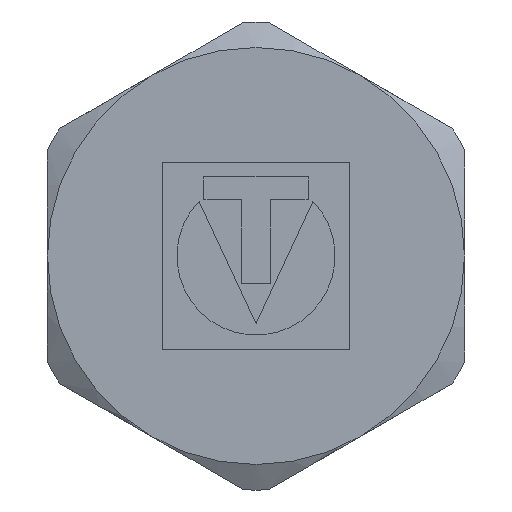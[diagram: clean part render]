
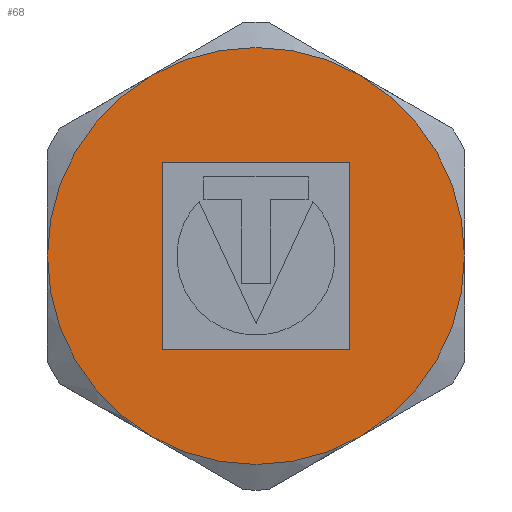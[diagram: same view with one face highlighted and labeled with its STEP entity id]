
A CAD part, front view. The second image highlights one B-rep face of the part: STEP entity #68.
In plain terms, the highlighted planar face has unit normal (0, -1, 0).
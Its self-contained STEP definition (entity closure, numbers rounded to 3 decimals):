
#68=ADVANCED_FACE('',(#260,#262),#264,.F.);
#260=FACE_BOUND('',#261,.T.);
#261=EDGE_LOOP('',(#517,#518,#519));
#262=FACE_BOUND('',#263,.T.);
#263=EDGE_LOOP('',(#520,#521,#522,#523));
#264=PLANE('',#265);
#265=AXIS2_PLACEMENT_3D('',#266,#267,#268);
#266=CARTESIAN_POINT('',(0.,0.,0.));
#267=DIRECTION('',(0.,1.,0.));
#268=DIRECTION('',(-1.,0.,0.));
#517=ORIENTED_EDGE('',*,*,#668,.T.);
#518=ORIENTED_EDGE('',*,*,#667,.T.);
#519=ORIENTED_EDGE('',*,*,#666,.T.);
#520=ORIENTED_EDGE('',*,*,#669,.F.);
#521=ORIENTED_EDGE('',*,*,#670,.F.);
#522=ORIENTED_EDGE('',*,*,#671,.F.);
#523=ORIENTED_EDGE('',*,*,#672,.F.);
#666=EDGE_CURVE('',#770,#792,#804,.F.);
#667=EDGE_CURVE('',#778,#770,#805,.F.);
#668=EDGE_CURVE('',#792,#778,#806,.F.);
#669=EDGE_CURVE('',#807,#808,#809,.F.);
#670=EDGE_CURVE('',#810,#807,#811,.F.);
#671=EDGE_CURVE('',#812,#810,#813,.F.);
#672=EDGE_CURVE('',#808,#812,#814,.F.);
#770=VERTEX_POINT('',#1308);
#778=VERTEX_POINT('',#1378);
#792=VERTEX_POINT('',#1492);
#804=CIRCLE('',#1601,12.25);
#805=CIRCLE('',#1605,12.25);
#806=CIRCLE('',#1609,12.25);
#807=VERTEX_POINT('',#1613);
#808=VERTEX_POINT('',#1614);
#809=LINE('',#1615,#1616);
#810=VERTEX_POINT('',#1618);
#811=LINE('',#1619,#1620);
#812=VERTEX_POINT('',#1622);
#813=LINE('',#1623,#1624);
#814=LINE('',#1626,#1627);
#1308=CARTESIAN_POINT('',(-12.25,0.,0.));
#1378=CARTESIAN_POINT('',(-6.125,0.,10.609));
#1492=CARTESIAN_POINT('',(12.25,0.,0.));
#1601=AXIS2_PLACEMENT_3D('',#1602,#1603,#1604);
#1602=CARTESIAN_POINT('',(0.,0.,0.));
#1603=DIRECTION('',(0.,1.,0.));
#1604=DIRECTION('',(1.,0.,0.));
#1605=AXIS2_PLACEMENT_3D('',#1606,#1607,#1608);
#1606=CARTESIAN_POINT('',(0.,0.,0.));
#1607=DIRECTION('',(0.,1.,0.));
#1608=DIRECTION('',(-1.,0.,0.));
#1609=AXIS2_PLACEMENT_3D('',#1610,#1611,#1612);
#1610=CARTESIAN_POINT('',(0.,0.,0.));
#1611=DIRECTION('',(0.,1.,0.));
#1612=DIRECTION('',(-0.5,0.,0.866));
#1613=CARTESIAN_POINT('',(5.502,0.,-5.502));
#1614=CARTESIAN_POINT('',(5.502,0.,5.502));
#1615=CARTESIAN_POINT('',(5.502,0.,5.502));
#1616=VECTOR('',#1617,1.);
#1617=DIRECTION('',(0.,0.,-1.));
#1618=CARTESIAN_POINT('',(-5.502,0.,-5.502));
#1619=CARTESIAN_POINT('',(5.502,0.,-5.502));
#1620=VECTOR('',#1621,1.);
#1621=DIRECTION('',(-1.,0.,0.));
#1622=CARTESIAN_POINT('',(-5.502,0.,5.502));
#1623=CARTESIAN_POINT('',(-5.502,0.,-5.502));
#1624=VECTOR('',#1625,1.);
#1625=DIRECTION('',(0.,0.,1.));
#1626=CARTESIAN_POINT('',(-5.502,0.,5.502));
#1627=VECTOR('',#1628,1.);
#1628=DIRECTION('',(1.,0.,0.));
